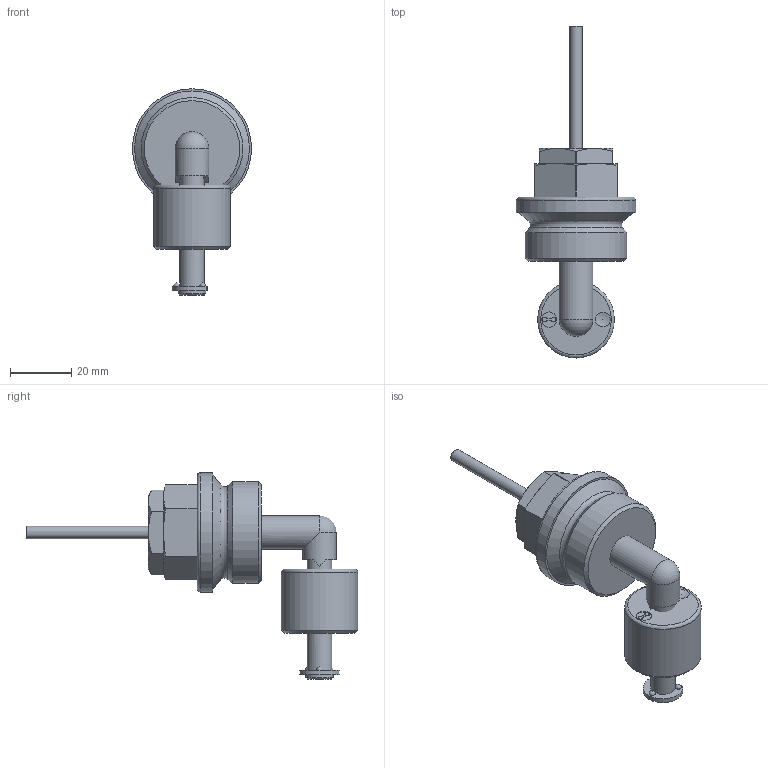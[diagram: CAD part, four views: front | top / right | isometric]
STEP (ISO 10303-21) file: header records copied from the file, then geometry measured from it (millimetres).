
FILE_DESCRIPTION(/* description */ ('Katalogmodell Elobau'),/* implementation_level */ '2;1');
FILE_NAME(/* name */ '2048_0_A.stp',/* time_stamp */ '2014-10-08T12:25:04+02:00',/* author */ ('Elobau GmbH & Co. KG'),/* organization */ ('Elobau GmbH & Co. KG'),/* preprocessor_version */ 'ST-DEVELOPER v15',/* originating_system */ 'SIEMENS PLM Software NX 8.5',/* authorisation */ '');
FILE_SCHEMA (('AUTOMOTIVE_DESIGN { 1 0 10303 214 3 1 1 1 }'));
Length unit declared in the file: millimetre
Products named in the file (1): 2048.0_A
Bounding box: 39 x 108.55 x 67.5 mm (x, y, z)
Volume: 44438.3 mm3; surface area: 11120 mm2
Topology: 2 solids, 2 shells, 90 faces, 215 edges, 132 vertices
Faces by surface type: plane 46, cylinder 24, cone 12, sphere 5, bspline 3
Full cylindrical faces by diameter (mm): 4.1 x1, 4.982 x1, 8 x1, 9 x1, 11 x2, 25 x1, 33.249 x1, 39 x1
Entity records: 2997 total; most frequent: CARTESIAN_POINT 503, DIRECTION 439, ORIENTED_EDGE 364, AXIS2_PLACEMENT_3D 187, EDGE_CURVE 182, VERTEX_POINT 122, EDGE_LOOP 115, ADVANCED_FACE 90
